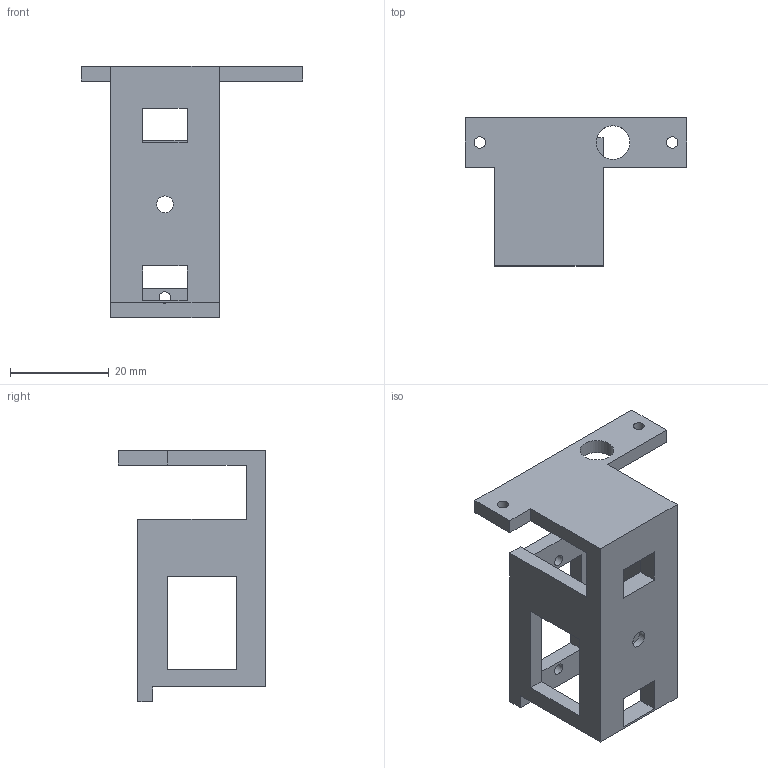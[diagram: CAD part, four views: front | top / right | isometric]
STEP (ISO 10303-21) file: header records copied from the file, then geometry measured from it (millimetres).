
FILE_DESCRIPTION(('Open CASCADE Model'),'2;1');
FILE_NAME('Open CASCADE Shape Model','2026-10-26T16:15:19',('Author'),( 'Open CASCADE'),'Open CASCADE STEP processor 7.8','Open CASCADE 7.8' ,'Unknown');
FILE_SCHEMA(('AUTOMOTIVE_DESIGN { 1 0 10303 214 1 1 1 1 }'));
Length unit declared in the file: millimetre
Products named in the file (1): Open CASCADE STEP translator 7.8 3
Bounding box: 45 x 30 x 51 mm (x, y, z)
Volume: 9642.1 mm3; surface area: 7969 mm2
Topology: 1 solids, 1 shells, 53 faces, 156 edges, 104 vertices
Faces by surface type: plane 47, cylinder 6
Full cylindrical faces by diameter (mm): 2.3 x4, 3.4 x1, 6.8 x1
Entity records: 3729 total; most frequent: CARTESIAN_POINT 734, DIRECTION 485, LINE 342, VECTOR 342, ORIENTED_EDGE 312, PCURVE 312, DEFINITIONAL_REPRESENTATION 312, EDGE_CURVE 156
